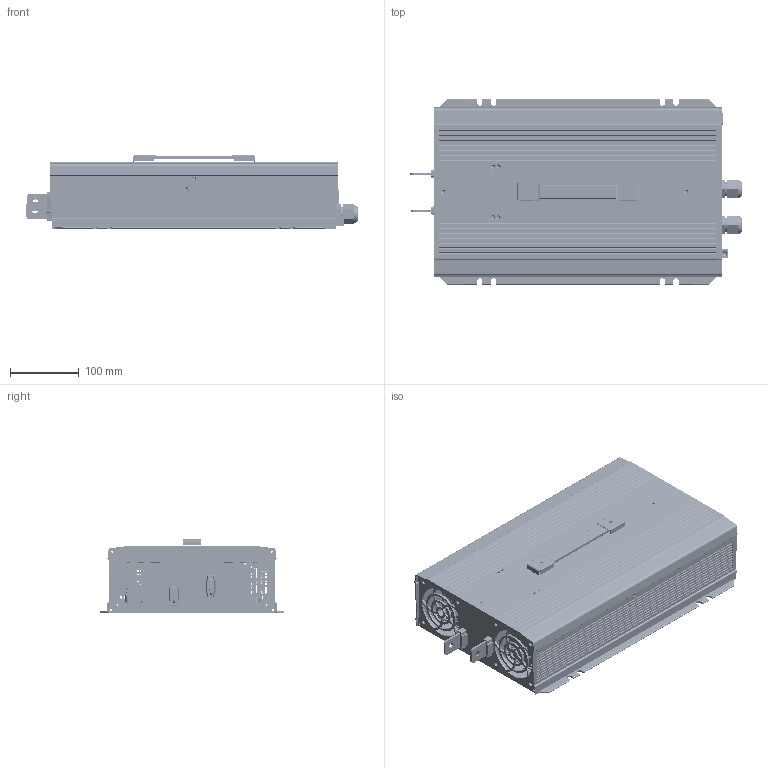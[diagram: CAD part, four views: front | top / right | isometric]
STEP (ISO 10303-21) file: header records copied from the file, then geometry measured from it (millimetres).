
FILE_DESCRIPTION(('Creo Elements/Direct Modeling STEP Export'),'2;1');
FILE_NAME('NTS-3200-TB.stp','2022-03-28T19:32:06',(''),(''),'PTC Creo Elements/Direct Modeling STEP processor for AP214 (Solid Model)','PTC Creo Elements/Direct Modeling 19.0E 27-Jun-2016 (C) Parametric Technology GmbH','');
FILE_SCHEMA(('AUTOMOTIVE_DESIGN { 1 0 10303 214 1 1 1 1 }'));
Length unit declared in the file: millimetre
Products named in the file (211): 零件1; _X2_96F64EF6_X0_9.PRT; _X2_96F64EF6_X0_8.PRT; _X2_96F64EF6_X0_7.PRT; _X2_96F64EF6_X0_6.PRT; _X2_96F64EF6_X0_5-13520.PRT; _X2_96F64EF6_X0_5-13850.ASM; _X2_96F64EF6_X0_5-15330.PRT; _X2_96F64EF6_X0_4-17110.PRT; _X2_96F64EF6_X0_4-17440.ASM; _X2_96F64EF6_X0_4-18920.PRT; _X2_96F64EF6_X0_3-20700.PRT; _X2_96F64EF6_X0_3-21030.ASM; _X2_96F64EF6_X0_3-22510.PRT; _X2_96F64EF6_X0_2-24290.PRT; _X2_96F64EF6_X0_2-24620.ASM; _X2_96F64EF6_X0_2-29190.PRT; _X2_96F64EF6_X0_2-30720.PRT; _X2_96F64EF6_X0_12.PRT; _X2_96F64EF6_X0_11.PRT; _X2_96F64EF6_X0_10.PRT; _X2_96F64EF6_X0_1-37090.PRT; _X2_96F64EF6_X0_1-37420.ASM; _X2_96F64EF6_X0_1-41990.PRT; _X2_96F64EF6_X0_1-43520.PRT; _X2_75355BB9_X0_-44580.PRT; _X2_75355BB9_X0_-44910.ASM; OPEN_SHELL_1-45900.PRT; OPEN_SHELL_1-46300.ASM; GUWEI1_1-60960.PRT; GUWEI1_1-61290.ASM; GUWEI1-75950.PRT; GUWEI1-76280.ASM; _S_4_X2_0192_X0__S__S_6_S-95820.PRT; _S_4_X2_0192_X0__S__S_6_S-96150.ASM; _S_4_X2_0192_X0__S_.ASM; TO220_21-104320.PRT; TO220_9.ASM; TO220_8.ASM; TO220_7.ASM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
Assembly tree (261 placements, depth 3):
  零件1
  NTS-3200-TB.stp
    111.PRT
    174-1544890.ASM
      174-1544560.PRT
    1GG1HS-SZ135A_.ASM
      1GG1HS-SZ135A__1-1538020.PRT
    1GG1HS-SZ135A__1-1538350.ASM
      1GG1HS-SZ135A__1-1538020.PRT
    1GG1HS-SZ163-1508220.ASM
      1GG1HS-SZ163-1507890.PRT
    1GG1HS-SZ163-1-1486340.ASM
      1GG1HS-SZ163-1-1486010.PRT
    1GG1HS-SZ907-1464460.ASM
      1GG1HS-SZ907-1464130.PRT
    1GG1HS-SZ908.ASM
      1GG1HS-SZ908_1-1431410.PRT
    1GG1HS-SZ908_1-1431740.ASM
      1GG1HS-SZ908_1-1431410.PRT
    1GG2MHS025J.ASM
      1GG2MHS025J_2-1383790.PRT
    1GG2MHS025J_1.ASM
      1GG2MHS025J_2-1383790.PRT
    1GG2MHS025J_2-1384400.ASM
      1GG2MHS025J_2-1383790.PRT
    1GG2MHS025J_3.ASM
      1GG2MHS025J_2-1383790.PRT
    1GG4CU-SZ075-1362840.ASM
      1GG4CU-SZ075-1362510.PRT
    1GG4CU-SZ075A-1348860.ASM
      1GG4CU-SZ075A-1348530.PRT
    1HH1-1334880.ASM
      1HH1-1334550.PRT
    1HH2NTU-3200.PRT
    1HH2NTU-3200I-1311250.ASM
      1HH2NTU-3200I-1310920.PRT
    1HH2NTU-3200J-1304490.ASM
      1HH2NTU-3200J-1304160.PRT
    1XX3NTS-3200-O-1297730.ASM
      1XX3NTS-3200-O-1297400.PRT
    1XX3NTU-3200-I-1118490.ASM
      1XX3NTU-3200-I-1118160.PRT
    555_1.ASM
      TERMINAL-117560.PRT
    77-931030.ASM
      77-930700.PRT
    CASE_TOP_PRT-928990.ASM
      CASE_TOP_PRT-928660.PRT
    CASE_TOP_PRT_1-859580.ASM
      CASE_TOP_PRT_1-859250.PRT
    CU-1-812010.ASM
      CU-1-811680.PRT
    CU-5-800910.ASM
      CU-5-800300.PRT
    CU-5_1.ASM
      CU-5-800300.PRT
    CU-8.PRT
    CU-9-755430.ASM
      CU-9-754820.PRT
    CU-9_1.ASM
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Bounding box: 484.16 x 270 x 108.65 mm (x, y, z)
Volume: 2336471.9 mm3; surface area: 1983558.1 mm2
Topology: 139 solids, 139 shells, 6596 faces, 17872 edges, 11829 vertices
Faces by surface type: plane 3939, cylinder 2289, cone 239, torus 112, bspline 16, extrusion 1
Entity records: 154239 total; most frequent: CARTESIAN_POINT 29468, ORIENTED_EDGE 25574, DIRECTION 24140, EDGE_CURVE 12787, VECTOR 9070, LINE 9069, VERTEX_POINT 8441, AXIS2_PLACEMENT_3D 7535
